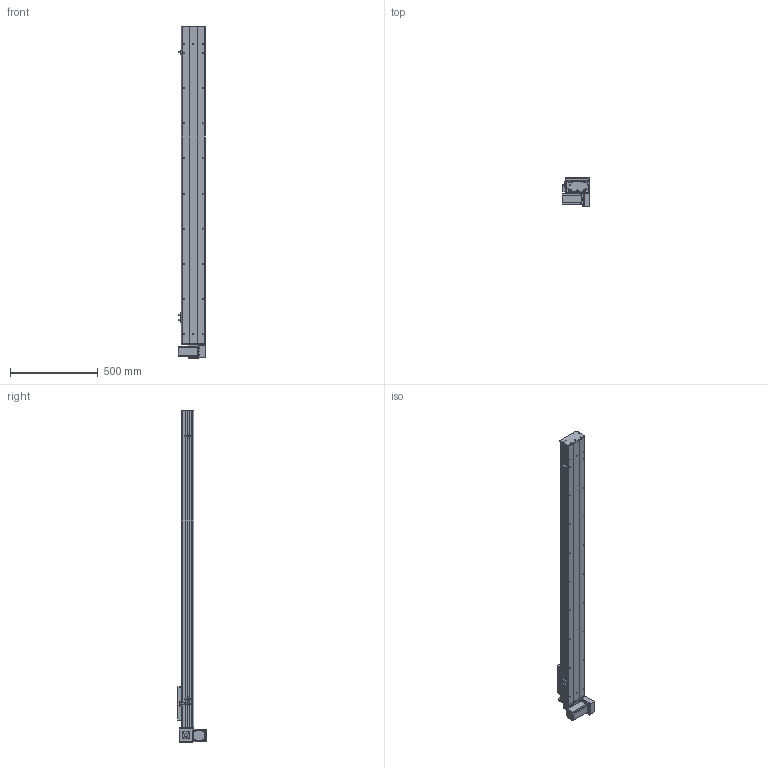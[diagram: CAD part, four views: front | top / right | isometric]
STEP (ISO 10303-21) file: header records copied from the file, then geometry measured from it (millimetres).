
FILE_DESCRIPTION (( 'STEP AP203' ), '1' );
FILE_NAME ('Y135CB-D90-S1500-BM-P400W.STEP', '2020-02-19T01:29:19', ( '微软用户' ), ( '微软中国' ), 'SwSTEP 2.0', 'SolidWorks 2017', '' );
FILE_SCHEMA (( 'CONFIG_CONTROL_DESIGN' ));
Length unit declared in the file: millimetre
Products named in the file (18): san松下电机400不带刹车----; 35CB---喘謫眊楊擘啣; 00B-俋欶BM--; 5CB --掛极耜裔啣-; 0B-埴倛裔啣; Y10B-耜蚾蟀諉啣----; C-詩湍揤踡え-陔; Y135CB-D90-S1500-BM-P400W; 135CB--詩湍-CE; Y100-135俋离換覜ん--; Y135C-陔俋离換覜結え-; 5C--俋欶; 0B-源倛裔啣; Y135CB-耜裔; C-雄赽釱--; 0B-萇儂楊擘啣; 135CB---遴掛极.-; Y10B--々湍喘謫眊--666
Assembly tree (21 placements, depth 2):
  Y135CB-D90-S1500-BM-P400W
    Y135CB-耜裔
    135CB---遴掛极.-
    35CB---喘謫眊楊擘啣
    0B-埴倛裔啣
    0B-源倛裔啣
    0B-萇儂楊擘啣
    san松下电机400不带刹车----
    5CB --掛极耜裔啣-  x2
    C-詩湍揤踡え-陔  x2
    135CB--詩湍-CE
    Y100-135俋离換覜ん--  x3
    Y135C-陔俋离換覜結え-
    5C--俋欶
    C-雄赽釱--
    Y10B--々湍喘謫眊--666
    00B-俋欶BM--
    Y10B-耜蚾蟀諉啣----
Bounding box: 157 x 163.3 x 1888 mm (x, y, z)
Volume: 5684794.4 mm3; surface area: 2237532.9 mm2
Topology: 21 solids, 21 shells, 957 faces, 2581 edges, 1710 vertices
Faces by surface type: cylinder 485, plane 456, cone 16
Entity records: 29955 total; most frequent: DIRECTION 4977, CARTESIAN_POINT 4944, ORIENTED_EDGE 4638, EDGE_CURVE 2319, AXIS2_PLACEMENT_3D 1819, VERTEX_POINT 1538, VECTOR 1339, LINE 1339
